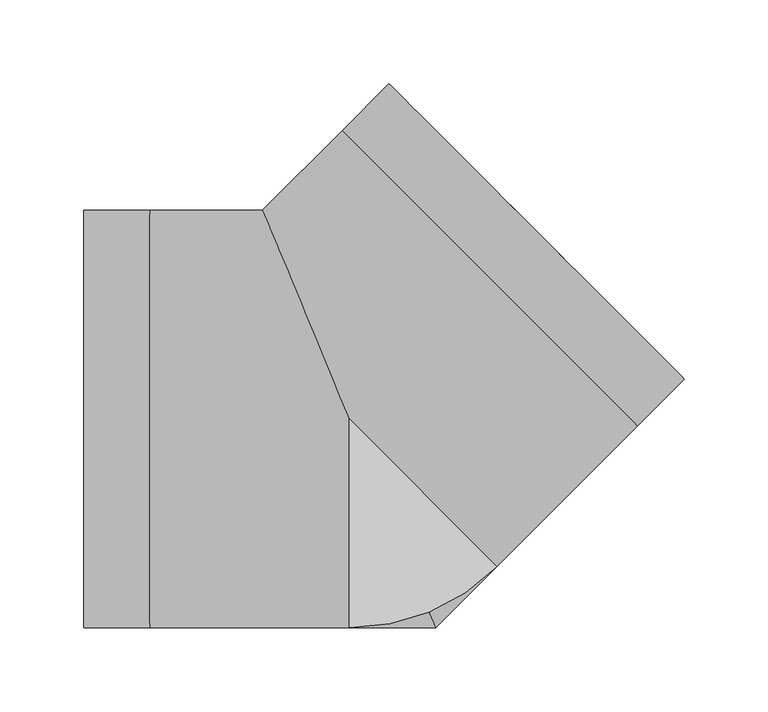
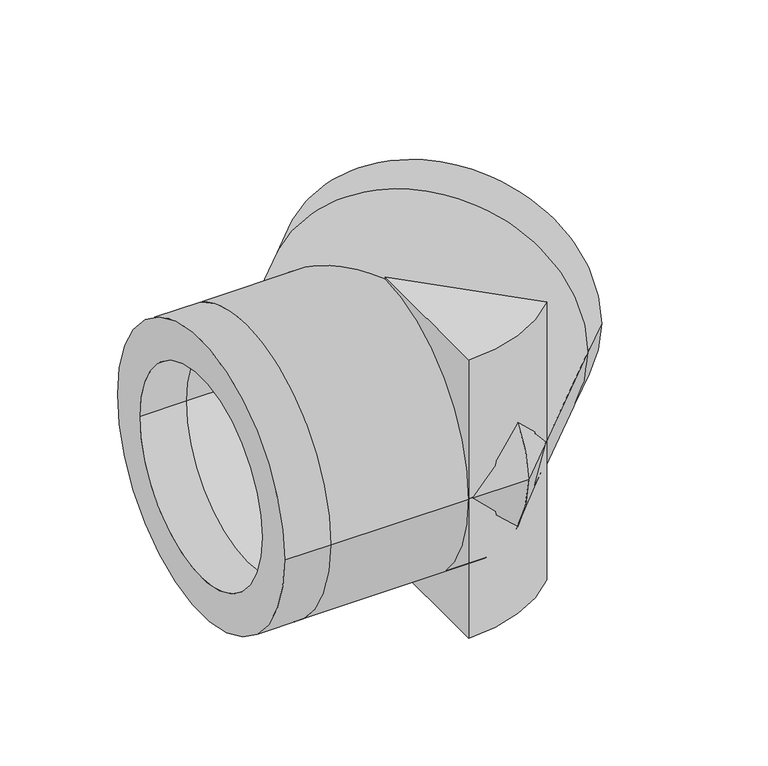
"""IFC4 building model written with IfcOpenShell, lengths in millimetres: pipe fitting geometry, Aquatherm - Elbow Green BW Segmented : SDR 7.4 FASER."""

from ifc_helpers import new_model, si_unit, point, frame, origin, origin_with_axes, origin_2d, place, context, project, spatial, polyline, circle_curve, ellipse_curve, trimmed, segment, composite_curve, outline, extrude, source, transform, mapped, element, save
from ifc_brep_helpers import plane_surface, cylinder_surface, revolved_surface, advanced_brep


def pipe_fitting_b40f973d(model_context):
    return source(origin(), model_context, "Body", "SolidModel", [
        extrude(outline(composite_curve([segment(polyline([(0.0, -124.968), (0.0, 0.0), (88.3657202, -88.3657202)]), True, "CONTINUOUS"), segment(trimmed(circle_curve(origin_2d(), 124.968), [point((88.3657202, -88.3657202))], [point((0.0, -124.968))], False, "CARTESIAN"), True, "CONTINUOUS")], self_intersect=False)), frame((0.0, 0.0, -127.0), z_axis=(0.0, 0.0, 1.0), x_axis=(1.0, 0.0, 0.0)), (0.0, 0.0, 1.0), 127.0),
        extrude(outline(composite_curve([segment(trimmed(circle_curve(origin_2d(), 124.968), [point((88.3657202, -88.3657202))], [point((0.0, -124.968))], False, "CARTESIAN"), True, "CONTINUOUS"), segment(polyline([(0.0, -124.968), (0.0, 0.0), (88.3657202, -88.3657202)]), True, "CONTINUOUS")], self_intersect=False)), origin_with_axes(), (0.0, 0.0, 1.0), 127.0),
        advanced_brep(
        [(-158.75, -124.968, 0.0), (-158.75, 124.968, 0.0), (-158.75, -91.1857318, 0.0), (-158.75, 91.1857318, 0.0), (200.6189217, 23.8874813, 0.0), (23.8874813, 200.6189217, 0.0), (176.7312508, 47.7751522, 0.0), (47.7751522, 176.7312508, 0.0), (-119.0625, -124.968, 0.0), (-119.0625, 124.968, 0.0), (-119.0625, -91.1857318, 0.0), (-119.0625, 91.1857318, 0.0), (51.7634405, -124.968, 0.0), (-51.7634405, 124.968, 0.0), (37.7703668, -91.1857318, 0.0), (-37.7703668, 91.1857318, 0.0), (172.5556214, -4.1758191, 0.0), (-4.1758191, 172.5556214, 0.0), (148.6679504, 19.7118518, 0.0), (19.7118518, 148.6679504, 0.0)],
        [
            (0, 1, circle_curve(frame((-158.75, 0.0, 0.0), z_axis=(-1.0, 0.0, 0.0), x_axis=(0.0, 1.0, 0.0)), 124.968)),
            (1, 0, circle_curve(frame((-158.75, 0.0, 0.0), z_axis=(-1.0, 0.0, 0.0), x_axis=(0.0, 1.0, 0.0)), 124.968)),
            (2, 3, circle_curve(frame((-158.75, 0.0, 0.0), z_axis=(1.0, 0.0, 0.0), x_axis=(0.0, 1.0, 0.0)), 91.1857318)),
            (3, 2, circle_curve(frame((-158.75, 0.0, 0.0), z_axis=(1.0, 0.0, 0.0), x_axis=(0.0, 1.0, 0.0)), 91.1857318)),
            (4, 5, circle_curve(frame((112.2532015, 112.2532015, 0.0), z_axis=(0.7071067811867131, 0.707106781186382, 0.0), x_axis=(-0.707106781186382, 0.7071067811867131, 0.0)), 124.968)),
            (5, 4, circle_curve(frame((112.2532015, 112.2532015, 0.0), z_axis=(0.7071067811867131, 0.707106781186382, 0.0), x_axis=(-0.707106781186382, 0.7071067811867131, 0.0)), 124.968)),
            (6, 7, circle_curve(frame((112.2532015, 112.2532015, 0.0), z_axis=(-0.7071067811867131, -0.707106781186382, 0.0), x_axis=(-0.707106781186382, 0.7071067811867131, 0.0)), 91.1857318)),
            (7, 6, circle_curve(frame((112.2532015, 112.2532015, 0.0), z_axis=(-0.7071067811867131, -0.707106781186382, 0.0), x_axis=(-0.707106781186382, 0.7071067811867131, 0.0)), 91.1857318)),
            (0, 8),
            (8, 9, circle_curve(frame((-119.0625, 0.0, 0.0), z_axis=(-1.0, 0.0, 0.0), x_axis=(0.0, 1.0, 0.0)), 124.968)),
            (9, 1),
            (9, 8, circle_curve(frame((-119.0625, 0.0, 0.0), z_axis=(-1.0, 0.0, 0.0), x_axis=(0.0, 1.0, 0.0)), 124.968)),
            (2, 10),
            (10, 11, circle_curve(frame((-119.0625, 0.0, 0.0), z_axis=(1.0, 0.0, 0.0), x_axis=(0.0, 1.0, 0.0)), 91.1857318)),
            (11, 3),
            (11, 10, circle_curve(frame((-119.0625, 0.0, 0.0), z_axis=(1.0, 0.0, 0.0), x_axis=(0.0, 1.0, 0.0)), 91.1857318)),
            (8, 12),
            (12, 13, ellipse_curve(frame((0.0, 0.0, 0.0), z_axis=(-0.9238795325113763, -0.3826834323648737, 0.0), x_axis=(-0.3826834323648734, 0.9238795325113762, 0.0)), 135.2643885, 124.968)),
            (13, 9),
            (13, 12, ellipse_curve(frame((0.0, 0.0, 0.0), z_axis=(-0.9238795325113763, -0.3826834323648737, 0.0), x_axis=(-0.3826834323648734, 0.9238795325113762, 0.0)), 135.2643885, 124.968)),
            (10, 14),
            (14, 15, ellipse_curve(frame((0.0, 0.0, 0.0), z_axis=(0.9238795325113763, 0.3826834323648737, 0.0), x_axis=(0.3826834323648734, -0.9238795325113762, 0.0)), 98.6987249, 91.1857318)),
            (15, 11),
            (15, 14, ellipse_curve(frame((0.0, 0.0, 0.0), z_axis=(0.9238795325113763, 0.3826834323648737, 0.0), x_axis=(0.3826834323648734, -0.9238795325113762, 0.0)), 98.6987249, 91.1857318)),
            (12, 16),
            (16, 17, circle_curve(frame((84.1899011, 84.1899011, 0.0), z_axis=(-0.7071067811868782, -0.707106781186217, 0.0), x_axis=(-0.707106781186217, 0.7071067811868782, 0.0)), 124.968)),
            (17, 13),
            (17, 16, circle_curve(frame((84.1899011, 84.1899011, 0.0), z_axis=(-0.7071067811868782, -0.707106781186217, 0.0), x_axis=(-0.707106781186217, 0.7071067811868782, 0.0)), 124.968)),
            (14, 18),
            (18, 19, circle_curve(frame((84.1899011, 84.1899011, 0.0), z_axis=(0.7071067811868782, 0.707106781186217, 0.0), x_axis=(-0.707106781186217, 0.7071067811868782, 0.0)), 91.1857318)),
            (19, 15),
            (19, 18, circle_curve(frame((84.1899011, 84.1899011, 0.0), z_axis=(0.7071067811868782, 0.707106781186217, 0.0), x_axis=(-0.707106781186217, 0.7071067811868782, 0.0)), 91.1857318)),
            (16, 4),
            (5, 17),
            (18, 6),
            (7, 19),
        ],
        [
            plane_surface(frame((-158.75, 0.0, 0.0), z_axis=(-1.0, 0.0, 0.0), x_axis=(0.0, 0.0, 1.0))),
            plane_surface(frame((112.2532015, 112.2532015, 0.0), z_axis=(0.7071067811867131, 0.707106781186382, 0.0), x_axis=(0.0, 0.0, 1.0))),
            cylinder_surface(frame((-158.75, 0.0, 0.0), z_axis=(-1.0, 0.0, 0.0), x_axis=(0.0, 1.0, 0.0)), 124.968),
            revolved_surface(polyline([(-119.0625, 91.1857318, 0.0), (-158.75, 91.1857318, 0.0)]), (-158.75, 0.0, 0.0), (1.0, 0.0, 0.0)),
            cylinder_surface(frame((-119.0625, 0.0, 0.0), z_axis=(-1.0, 0.0, 0.0), x_axis=(0.0, 1.0, 0.0)), 124.968),
            revolved_surface(polyline([(37.77036681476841, 91.1857318, 0.0), (-119.0625, 91.1857318, 0.0)]), (-119.0625, 0.0, 0.0), (1.0, 0.0, 0.0)),
            cylinder_surface(frame((0.0, 0.0, 0.0), z_axis=(-0.7071067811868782, -0.707106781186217, 0.0), x_axis=(-0.707106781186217, 0.7071067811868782, 0.0)), 124.968),
            revolved_surface(polyline([(19.71185179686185, 148.66795040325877, 0.0), (-91.18573180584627, 37.77036680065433, 0.0)]), (0.0, 0.0, 0.0), (0.7071067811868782, 0.707106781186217, 0.0)),
            cylinder_surface(frame((84.1899011, 84.1899011, 0.0), z_axis=(-0.7071067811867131, -0.707106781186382, 0.0), x_axis=(-0.707106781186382, 0.7071067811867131, 0.0)), 124.968),
            revolved_surface(polyline([(47.77515219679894, 176.73125080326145, 0.0), (19.71185179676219, 148.66795040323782, 0.0)]), (84.1899011, 84.1899011, 0.0), (0.7071067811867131, 0.707106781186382, 0.0)),
        ],
        [
            (0, [[1, 2], [3, 4]]),
            (1, [[5, 6], [7, 8]]),
            (2, [[-1, 9, 10, 11]]),
            (2, [[-2, -11, 12, -9]]),
            (3, [[-3, 13, 14, 15]]),
            (3, [[-4, -15, 16, -13]]),
            (4, [[-10, 17, 18, 19]]),
            (4, [[-12, -19, 20, -17]]),
            (5, [[-14, 21, 22, 23]]),
            (5, [[-16, -23, 24, -21]]),
            (6, [[-18, 25, 26, 27]]),
            (6, [[-20, -27, 28, -25]]),
            (7, [[-22, 29, 30, 31]]),
            (7, [[-24, -31, 32, -29]]),
            (8, [[-26, 33, -6, 34]]),
            (8, [[-28, -34, -5, -33]]),
            (9, [[-30, 35, -8, 36]]),
            (9, [[-32, -36, -7, -35]]),
        ],
    ),
    ])


if __name__ == "__main__":
    model = new_model("IFC4")
    model_context = context("Model", 3, world=origin())
    ifc_project = project(units=[si_unit("LENGTHUNIT", "METRE", prefix="MILLI")], contexts=[model_context])
    site = spatial("IfcSite", under=ifc_project)
    building = spatial("IfcBuilding", under=site)
    placement = place(None, origin())
    pipe_fitting_shape = pipe_fitting_b40f973d(model_context)
    element("IfcPipeFitting", 1, ObjectType="Aquatherm - Elbow Green BW Segmented : SDR 7.4 FASER", at=placement, inside=building, context=model_context, shape_type="MappedRepresentation", body=[
        mapped(pipe_fitting_shape, transform((0.0, 0.0, 0.0), x_axis=(1.0, 0.0, 0.0), y_axis=(0.0, 1.0, 0.0), z_axis=(0.0, 0.0, 1.0))),
    ])
    save(model, "model.ifc")
